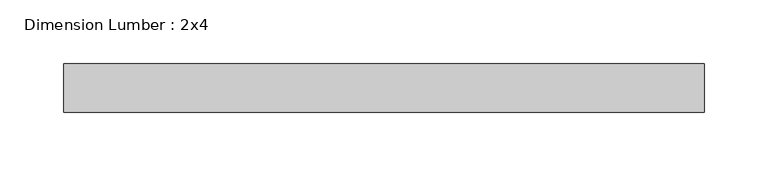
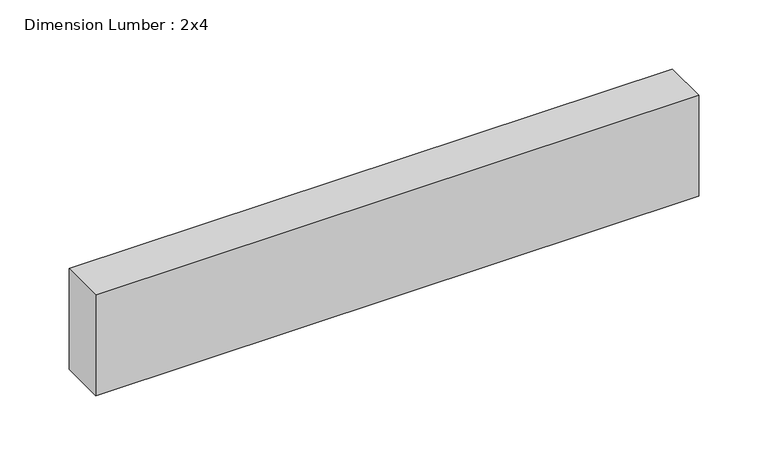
"""IFC4 building model written with IfcOpenShell, lengths in millimetres: beam geometry, Dimension Lumber : 2x4."""

import ifcopenshell
import ifcopenshell.guid

model = None  # the IFC model being written
_history = None  # IfcOwnerHistory: only IFC2X3 demands one
_inside = {}  # id of a spatial element -> (the spatial element, [elements in it])
_under = {}  # id of a project, library or spatial element -> (it, [spatial elements below it])
_declared = {}  # id of a project -> (the project, [libraries it declares])
_typed = {}  # id of a type object -> (the type object, [elements of that type])
_made_of = {}  # id of a material, layer set ... -> (it, [elements and type objects made of it])


def new_model(schema):
    """Start an empty IFC model of exactly this schema.

    Asked for "IFC4X3", IfcOpenShell would pick the latest addendum, in which some entities
    have other attributes; the version numbers below select the first issue.
    IFC2X3 requires an IfcOwnerHistory on every rooted entity: one is made here for all.
    """
    global model, _history
    if schema == "IFC4X3":
        model = ifcopenshell.file(schema_version=(4, 3, 0, 0))
    else:
        model = ifcopenshell.file(schema=schema)
    _inside.clear()
    _under.clear()
    _declared.clear()
    _typed.clear()
    _made_of.clear()
    _history = None
    if model.schema == "IFC2X3":
        org = make("IfcOrganization", Name="unknown")
        user = make(
            "IfcPersonAndOrganization",
            ThePerson=make("IfcPerson", FamilyName="unknown"),
            TheOrganization=org,
        )
        app = make(
            "IfcApplication",
            ApplicationDeveloper=org,
            Version="unknown",
            ApplicationFullName="unknown",
            ApplicationIdentifier="unknown",
        )
        _history = make(
            "IfcOwnerHistory",
            OwningUser=user,
            OwningApplication=app,
            ChangeAction="ADDED",
            CreationDate=0,
        )
    return model


def make(cls, **values):
    """One entity of the class cls with the attributes given. An attribute that is None is left unset."""
    return model.create_entity(
        cls, **{name: value for name, value in values.items() if value is not None}
    )


def rooted(cls, **values):
    """An entity with a GlobalId (a new one), such as an element, a storey or a relation."""
    return make(cls, GlobalId=ifcopenshell.guid.new(), OwnerHistory=_history, **values)


def si_unit(unit_type, name, prefix=None):
    """IfcSIUnit, for example si_unit("LENGTHUNIT", "METRE", prefix="MILLI")."""
    return make("IfcSIUnit", UnitType=unit_type, Prefix=prefix, Name=name)


def assignment(units):
    """IfcUnitAssignment: the units of a project."""
    return None if units is None else make("IfcUnitAssignment", Units=units)


def point(xyz):
    """IfcCartesianPoint."""
    return None if xyz is None else make("IfcCartesianPoint", Coordinates=xyz)


def direction(xyz):
    """IfcDirection."""
    return None if xyz is None else make("IfcDirection", DirectionRatios=xyz)


def frame(location, z_axis=None, x_axis=None):
    """IfcAxis2Placement3D, a coordinate frame: its origin and axes. An axis left out is left unset."""
    return make(
        "IfcAxis2Placement3D",
        Location=point(location),
        Axis=direction(z_axis),
        RefDirection=direction(x_axis),
    )


def origin():
    """The frame at (0, 0, 0) with its axes left unset."""
    return frame((0.0, 0.0, 0.0))


def place(relative_to, where):
    """IfcLocalPlacement: puts the frame where relative to a parent placement (None: the world)."""
    return make(
        "IfcLocalPlacement", PlacementRelTo=relative_to, RelativePlacement=where
    )


def context(
    kind, dimensions, precision=None, world=None, true_north=None, identifier=None
):
    """IfcGeometricRepresentationContext, for example the 3D "Model" context."""
    return make(
        "IfcGeometricRepresentationContext",
        ContextIdentifier=identifier,
        ContextType=kind,
        CoordinateSpaceDimension=dimensions,
        Precision=precision,
        WorldCoordinateSystem=world,
        TrueNorth=true_north,
    )


def project(units=None, contexts=None):
    """IfcProject with its units and contexts."""
    return rooted(
        "IfcProject",
        Name="project",
        RepresentationContexts=contexts,
        UnitsInContext=assignment(units),
    )


def spatial(cls, under=None, at=None, **own):
    """A site, building, storey or space (cls), placed at a placement, below another one or the project."""
    s = rooted(cls, ObjectPlacement=at, **own)
    if under is not None:
        _under.setdefault(under.id(), (under, []))[1].append(s)
    return s


def polyline(points):
    """IfcPolyline through the points."""
    return make("IfcPolyline", Points=[point(p) for p in points])


def outline(outer, holes=None, kind="AREA"):
    """IfcArbitraryClosedProfileDef: a profile drawn as a closed curve; with holes, ...WithVoids."""
    if holes is None:
        return make("IfcArbitraryClosedProfileDef", ProfileType=kind, OuterCurve=outer)
    return make(
        "IfcArbitraryProfileDefWithVoids",
        ProfileType=kind,
        OuterCurve=outer,
        InnerCurves=holes,
    )


def extrude(swept, where, along, depth):
    """IfcExtrudedAreaSolid: the profile swept, set in the frame where, extruded along a direction by depth."""
    return make(
        "IfcExtrudedAreaSolid",
        SweptArea=swept,
        Position=where,
        ExtrudedDirection=direction(along),
        Depth=depth,
    )


def shape(context_of_items, identifier, shape_type, items):
    """IfcShapeRepresentation: the items that make up one representation, for example the "Body"."""
    return make(
        "IfcShapeRepresentation",
        ContextOfItems=context_of_items,
        RepresentationIdentifier=identifier,
        RepresentationType=shape_type,
        Items=items,
    )


def source(mapping_origin, context_of_items, identifier, shape_type, items):
    """IfcRepresentationMap: a shape defined once, which mapped items show again and again."""
    return make(
        "IfcRepresentationMap",
        MappingOrigin=mapping_origin,
        MappedRepresentation=shape(context_of_items, identifier, shape_type, items),
    )


def transform(
    local_origin,
    x_axis=None,
    y_axis=None,
    z_axis=None,
    scale=None,
    scale2=None,
    scale3=None,
    uniform=True,
):
    """IfcCartesianTransformationOperator3D, or its non-uniform kind. x_axis, y_axis, z_axis: its Axis1, 2, 3."""
    if uniform:
        return make(
            "IfcCartesianTransformationOperator3D",
            Axis1=direction(x_axis),
            Axis2=direction(y_axis),
            LocalOrigin=point(local_origin),
            Scale=scale,
            Axis3=direction(z_axis),
        )
    return make(
        "IfcCartesianTransformationOperator3DnonUniform",
        Axis1=direction(x_axis),
        Axis2=direction(y_axis),
        LocalOrigin=point(local_origin),
        Scale=scale,
        Axis3=direction(z_axis),
        Scale2=scale2,
        Scale3=scale3,
    )


def mapped(mapping_source, mapping_target):
    """IfcMappedItem: shows the shape of a source again, moved by a transform."""
    return make(
        "IfcMappedItem", MappingSource=mapping_source, MappingTarget=mapping_target
    )


def made_of(thing, what):
    """Note that an element or type object is made of a material, layer set ...; save() writes the relation."""
    if what is not None:
        _made_of.setdefault(what.id(), (what, []))[1].append(thing)
    return thing


def element(
    cls,
    number,
    at=None,
    inside=None,
    cuts=None,
    type_object=None,
    material=None,
    context=None,
    identifier="Body",
    shape_type=None,
    held_by="IfcProductDefinitionShape",
    body=None,
    shapes=None,
    **own,
):
    """One element of the class cls, such as IfcWall. Its Tag is "e" and its number.

    at: its placement. inside: the storey or other place that contains it. cuts: it is an
    opening in that element (IfcRelVoidsElement). A single representation is given by context,
    identifier, shape_type and body (its items); several are given by shapes. held_by: the class
    of the entity that holds the representations. save() writes the other relations.
    """
    e = rooted(cls, Tag="e%d" % number, ObjectPlacement=at, **own)
    if body is not None:
        shapes = [shape(context, identifier, shape_type, body)]
    if shapes is not None:
        e.Representation = make(held_by, Representations=shapes)
    if inside is not None:
        _inside.setdefault(inside.id(), (inside, []))[1].append(e)
    if cuts is not None:
        rooted(
            "IfcRelVoidsElement", RelatingBuildingElement=cuts, RelatedOpeningElement=e
        )
    if type_object is not None:
        _typed.setdefault(type_object.id(), (type_object, []))[1].append(e)
    return made_of(e, material)


def aggregate(whole, parts):
    """IfcRelAggregates: a whole, such as a stair, and the parts it consists of."""
    return rooted("IfcRelAggregates", RelatingObject=whole, RelatedObjects=parts)


def save(model, path):
    """Write the relations noted so far, then the file.

    IfcRelAggregates (storeys below a building ...), IfcRelContainedInSpatialStructure (elements
    in a storey), IfcRelDefinesByType, IfcRelAssociatesMaterial and IfcRelDeclares: one each for
    every whole, place, type object, material and project.
    """
    for whole, parts in _under.values():
        aggregate(whole, parts)
    for where, things in _inside.values():
        rooted(
            "IfcRelContainedInSpatialStructure",
            RelatedElements=things,
            RelatingStructure=where,
        )
    for kind, things in _typed.values():
        rooted("IfcRelDefinesByType", RelatedObjects=things, RelatingType=kind)
    for what, things in _made_of.values():
        rooted("IfcRelAssociatesMaterial", RelatedObjects=things, RelatingMaterial=what)
    for by, libraries in _declared.values():
        rooted("IfcRelDeclares", RelatingContext=by, RelatedDefinitions=libraries)
    model.write(path)


def dimension_lumber_2x4_e97b13a8(model_context):
    return source(origin(), model_context, "Body", "SweptSolid", [
        extrude(outline(polyline([(251.4699219, 19.05), (251.4699219, -19.05), (-251.4699219, -19.05), (-251.4699219, 19.05), (251.4699219, 19.05)])), frame((0.0, 0.0, -44.45), z_axis=(0.0, 0.0, 1.0), x_axis=(1.0, 0.0, 0.0)), (0.0, 0.0, 1.0), 88.9),
    ])


if __name__ == "__main__":
    model = new_model("IFC4")
    model_context = context("Model", 3, world=origin())
    ifc_project = project(units=[si_unit("LENGTHUNIT", "METRE", prefix="MILLI")], contexts=[model_context])
    site = spatial("IfcSite", under=ifc_project)
    building = spatial("IfcBuilding", under=site)
    placement = place(None, origin())
    dimension_lumber_2x4_shape = dimension_lumber_2x4_e97b13a8(model_context)
    element("IfcBeam", 1, ObjectType="Dimension Lumber : 2x4", at=placement, inside=building, context=model_context, shape_type="MappedRepresentation", body=[
        mapped(dimension_lumber_2x4_shape, transform((0.0, 0.0, 0.0), x_axis=(1.0, 0.0, 0.0), y_axis=(0.0, 1.0, 0.0), z_axis=(0.0, 0.0, 1.0))),
    ])
    save(model, "model.ifc")
